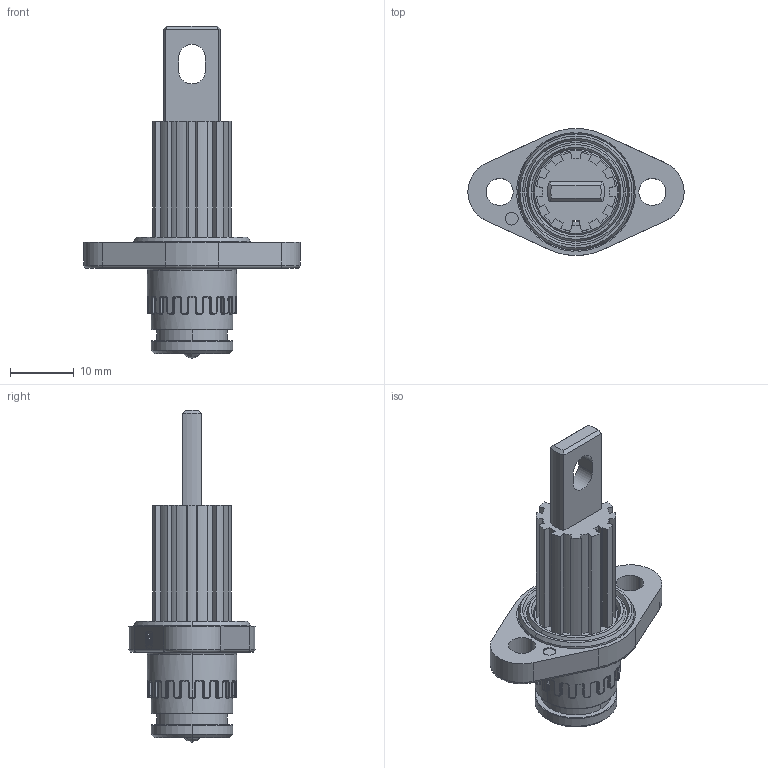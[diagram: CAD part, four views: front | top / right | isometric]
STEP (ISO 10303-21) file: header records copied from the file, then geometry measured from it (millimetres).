
FILE_DESCRIPTION((''),'2;1');
FILE_NAME('HRCT-S0136-A01','2023-11-03T09:26:48',('xny-lf'),(''),'CREO PARAMETRIC BY PTC INC, 2018050','CREO PARAMETRIC BY PTC INC, 2018050','');
FILE_SCHEMA(('CONFIG_CONTROL_DESIGN'));
Length unit declared in the file: millimetre
Products named in the file (1): HRCT-S0136-A01
Bounding box: 34 x 19.93 x 52.2 mm (x, y, z)
Volume: 4984.8 mm3; surface area: 4570.9 mm2
Topology: 1 solids, 6 shells, 742 faces, 1803 edges, 1092 vertices
Faces by surface type: cylinder 259, plane 211, bspline 146, torus 84, cone 40, extrusion 2
Entity records: 34337 total; most frequent: CARTESIAN_POINT 17591, ORIENTED_EDGE 3606, DIRECTION 3407, EDGE_CURVE 1803, AXIS2_PLACEMENT_3D 1326, VERTEX_POINT 1092, EDGE_LOOP 779, VECTOR 755
